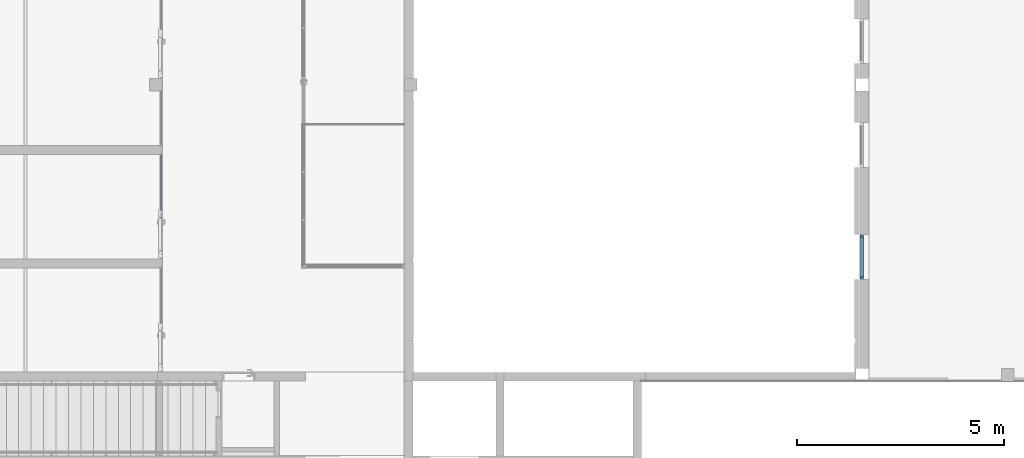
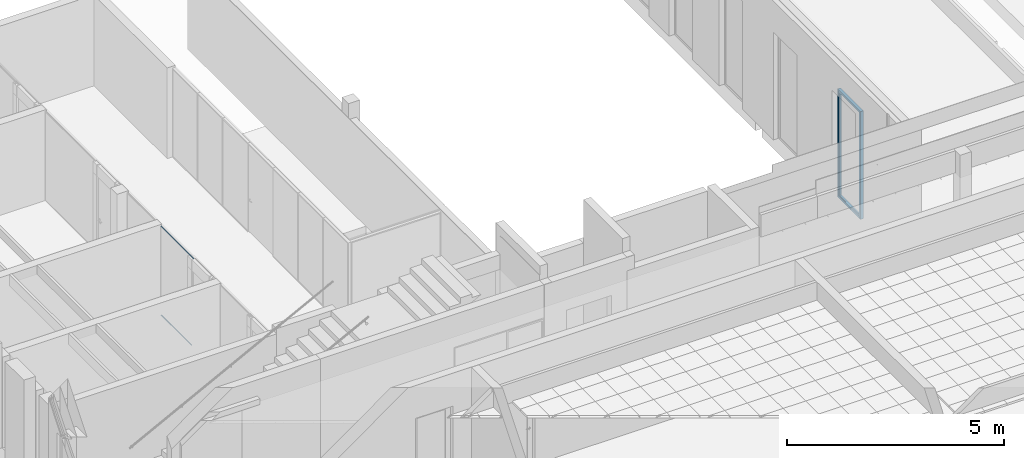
# One storey, part 5 of 79: 6 members, 2 elements without a shape of their own.
"""IFC2X3 building model written with IfcOpenShell, lengths in millimetres."""

from ifc_helpers import new_model, entity, si_unit, converted_unit, derived_unit, money_unit, direction, frame, origin_with_axes, place, context, subcontext, project, spatial, faceted_brep, source, transform, mapped, material, material_list, type_object, element, aggregate, save


model = new_model("IFC2X3")

# Units and contexts
model_context = context("Model", 3, precision=0.01, world=origin_with_axes(), true_north=direction((0.0, 1.0)))
body_context = subcontext(model_context, "Body", "Model", "MODEL_VIEW")
ifc_project = project(units=[si_unit("LENGTHUNIT", "METRE", prefix="MILLI"), si_unit("AREAUNIT", "SQUARE_METRE"), si_unit("VOLUMEUNIT", "CUBIC_METRE"), converted_unit("PLANEANGLEUNIT", "DEGREE", entity("IfcPlaneAngleMeasure", 0.0174532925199), si_unit("PLANEANGLEUNIT", "RADIAN"), dimensions=[0, 0, 0, 0, 0, 0, 0]), si_unit("SOLIDANGLEUNIT", "STERADIAN"), money_unit("EUR"), converted_unit("TIMEUNIT", "Year", entity("IfcTimeMeasure", 31556926.0), si_unit("TIMEUNIT", "SECOND"), dimensions=[0, 0, 1, 0, 0, 0, 0]), si_unit("MASSUNIT", "GRAM", prefix="KILO"), si_unit("THERMODYNAMICTEMPERATUREUNIT", "DEGREE_CELSIUS"), si_unit("LUMINOUSINTENSITYUNIT", "LUMEN"), si_unit("ENERGYUNIT", "JOULE", prefix="MEGA"), derived_unit("THERMALCONDUCTANCEUNIT", [(si_unit("POWERUNIT", "WATT"), 1), (si_unit("LENGTHUNIT", "METRE"), -1), (si_unit("THERMODYNAMICTEMPERATUREUNIT", "KELVIN"), -1)]), derived_unit("SPECIFICHEATCAPACITYUNIT", [(si_unit("ENERGYUNIT", "JOULE"), 1), (si_unit("MASSUNIT", "GRAM", prefix="KILO"), -1), (si_unit("THERMODYNAMICTEMPERATUREUNIT", "KELVIN"), -1)]), derived_unit("MASSDENSITYUNIT", [(si_unit("MASSUNIT", "GRAM", prefix="KILO"), 1), (si_unit("VOLUMEUNIT", "CUBIC_METRE"), -1)])], contexts=[model_context])

# Site, building, storey
site_placement = place(None, origin_with_axes())
site = spatial("IfcSite", under=ifc_project, at=site_placement, Name="L.Koidula tn 11b", CompositionType="ELEMENT")
building_placement = place(site_placement, origin_with_axes())
building = spatial("IfcBuilding", under=site, at=building_placement, Name="Rakvere Riigigümnaasium", CompositionType="ELEMENT")
storey_placement = place(building_placement, frame((0.0, 0.0, 3720.0), z_axis=(0.0, 0.0, 1.0), x_axis=(1.0, 0.0, 0.0)))
storey = spatial("IfcBuildingStorey", under=building, at=storey_placement, Name="2.korrus +3,72", CompositionType="ELEMENT", Elevation=3720.0)

# Curtain wall, members
curtain_wall_type = type_object("IfcCurtainWallType", Name="Curtain Wall Type", PredefinedType="NOTDEFINED")
curtain_wall_1_placement = place(storey_placement, frame((58002.0348101, 20096.1456632, -1405.00005955), z_axis=(0.0, 0.0, 1.0), x_axis=(1.0, 0.0, 0.0)))
curtain_wall_1 = element("IfcCurtainWall", 1, at=curtain_wall_1_placement, inside=storey, type_object=curtain_wall_type, Name="SKLF-23")
ifc_material_1 = material(Name="Alumiiniumprofiil (RAL 7021)")
member_type_1 = type_object("IfcMemberType", Name="Boundary Frame 58 x 80", PredefinedType="MULLION")
shared_shape_1 = source(origin_with_axes(), body_context, "Body", "Brep", [
    faceted_brep([(45.0, -12.0, 1014.99992136), (45.0, 12.0, 1014.99992136), (58.0, 12.0, 1001.99992136), (58.0, 22.0, 1001.99992136), (0.0, 22.0, 1059.99992136), (0.0, -58.0, 1059.99992136), (58.0, -58.0, 1001.99992136), (58.0, -12.0, 1001.99992136), (45.0, -12.0, 45.0), (45.0, 12.0, 45.0), (58.0, 12.0, 58.0), (58.0, 22.0, 58.0), (0.0, 22.0, 0.0), (0.0, -58.0, 0.0), (58.0, -58.0, 58.0), (58.0, -12.0, 58.0)], [[[0, 1, 2, 3, 4, 5, 6, 7]], [[1, 0, 8, 9]], [[10, 2, 1, 9]], [[2, 10, 11, 3]], [[4, 3, 11, 12]], [[5, 4, 12, 13]], [[6, 5, 13, 14]], [[15, 7, 6, 14]], [[0, 7, 15, 8]], [[8, 15, 14, 13, 12, 11, 10, 9]]]),
])
member_1_placement = place(curtain_wall_1_placement, frame((0.0, 529.99994916, 0.0), z_axis=(0.0, -1.0, 0.0), x_axis=(0.0, 0.0, 1.0)))
member_1 = element("IfcMember", 2, at=member_1_placement, type_object=member_type_1, material=ifc_material_1, Name="KLF-06-25-Profiilid", ObjectType="MULLION", context=body_context, shape_type="MappedRepresentation", body=[
    mapped(shared_shape_1, transform((0.0, 0.0, 0.0))),
])
member_2_placement = place(curtain_wall_1_placement, frame((0.0, -529.99994916, 3030.00005901), z_axis=(0.0, 1.0, 0.0), x_axis=(0.0, 0.0, -1.0)))
member_2 = element("IfcMember", 3, at=member_2_placement, type_object=member_type_1, material=ifc_material_1, Name="KLF-06-23-Profiilid", ObjectType="MULLION", context=body_context, shape_type="MappedRepresentation", body=[
    mapped(shared_shape_1, transform((0.0, 0.0, 0.0))),
])
shared_shape_2 = source(origin_with_axes(), body_context, "Body", "Brep", [
    faceted_brep([(-45.0, -12.0, 2985.00005901), (-58.0, -12.0, 2972.00005901), (-58.0, -58.0, 2972.00005901), (0.0, -58.0, 3030.00005901), (0.0, 22.0, 3030.00005901), (-58.0, 22.0, 2972.00005901), (-58.0, 12.0, 2972.00005901), (-45.0, 12.0, 2985.00005901), (-45.0, -12.0, 45.0), (-58.0, -12.0, 58.0), (-58.0, -58.0, 58.0), (0.0, -58.0, 0.0), (0.0, 22.0, 0.0), (-58.0, 22.0, 58.0), (-58.0, 12.0, 58.0), (-45.0, 12.0, 45.0)], [[[0, 1, 2, 3, 4, 5, 6, 7]], [[0, 8, 9, 1]], [[9, 10, 2, 1]], [[2, 10, 11, 3]], [[3, 11, 12, 4]], [[4, 12, 13, 5]], [[6, 5, 13, 14]], [[14, 15, 7, 6]], [[7, 15, 8, 0]], [[8, 15, 14, 13, 12, 11, 10, 9]]]),
])
member_3_placement = place(curtain_wall_1_placement, frame((0.0, 529.99994916, 0.0), z_axis=(0.0, 0.0, 1.0), x_axis=(0.0, 1.0, 0.0)))
member_3 = element("IfcMember", 4, at=member_3_placement, type_object=member_type_1, material=ifc_material_1, Name="KLF-06-24-Profiilid", ObjectType="MULLION", context=body_context, shape_type="MappedRepresentation", body=[
    mapped(shared_shape_2, transform((0.0, 0.0, 0.0))),
])
shared_shape_3 = source(origin_with_axes(), body_context, "Body", "Brep", [
    faceted_brep([(45.0, -12.0, 2985.00005901), (45.0, 12.0, 2985.00005901), (58.0, 12.0, 2972.00005901), (58.0, 22.0, 2972.00005901), (0.0, 22.0, 3030.00005901), (0.0, -58.0, 3030.00005901), (58.0, -58.0, 2972.00005901), (58.0, -12.0, 2972.00005901), (45.0, -12.0, 45.0), (45.0, 12.0, 45.0), (58.0, 12.0, 58.0), (58.0, 22.0, 58.0), (0.0, 22.0, 0.0), (0.0, -58.0, 0.0), (58.0, -58.0, 58.0), (58.0, -12.0, 58.0)], [[[0, 1, 2, 3, 4, 5, 6, 7]], [[1, 0, 8, 9]], [[10, 2, 1, 9]], [[2, 10, 11, 3]], [[4, 3, 11, 12]], [[5, 4, 12, 13]], [[6, 5, 13, 14]], [[15, 7, 6, 14]], [[0, 7, 15, 8]], [[8, 15, 14, 13, 12, 11, 10, 9]]]),
])
member_4_placement = place(curtain_wall_1_placement, frame((0.0, -529.99994916, 0.0), z_axis=(0.0, 0.0, 1.0), x_axis=(0.0, 1.0, 0.0)))
member_4 = element("IfcMember", 5, at=member_4_placement, type_object=member_type_1, material=ifc_material_1, Name="KLF-06-26-Profiilid", ObjectType="MULLION", context=body_context, shape_type="MappedRepresentation", body=[
    mapped(shared_shape_3, transform((0.0, 0.0, 0.0))),
])
aggregate(curtain_wall_1, [member_1, member_2, member_3, member_4])

curtain_wall_2_placement = place(storey_placement, frame((41130.9157939, 20570.4555219, 2.41342252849e-05), z_axis=(0.0, 0.0, 1.0), x_axis=(1.0, 0.0, 0.0)))
curtain_wall_2 = element("IfcCurtainWall", 6, at=curtain_wall_2_placement, inside=storey, type_object=curtain_wall_type, Name="SKLF-13")
ifc_material_2 = material(Name="Klaasvill")
ifc_material_3 = material(Name="Alumiiniumprofiil")
ifc_material_list = material_list([ifc_material_2, ifc_material_3])
member_type_2 = type_object("IfcMemberType", Name="Boundary Frame 17 x 1", PredefinedType="MULLION")
shared_shape_4 = source(origin_with_axes(), body_context, "Body", "Brep", [
    faceted_brep([(2.00001937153, -5.0, -54.9999995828), (8.35001937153, -5.0, -54.9999995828), (8.35001937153, -5.0, 1461.64998584), (2.00001937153, -5.0, 1467.99998584), (2.00001937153, 9.01614452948, -54.9999995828), (8.35001937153, 9.01614452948, -54.9999995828), (8.35001937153, 9.01614452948, 1461.64998584), (2.00001937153, 9.01614452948, 1467.99998584)], [[[0, 1, 2, 3]], [[0, 4, 5, 1]], [[1, 5, 6, 2]], [[3, 2, 6, 7]], [[4, 0, 3, 7]], [[5, 4, 7, 6]]]),
    faceted_brep([(11.987414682, 9.01614444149, -54.9999995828), (12.004489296, 7.03075035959, -54.9999995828), (12.004489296, 7.03075035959, 1457.99551592), (11.987414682, 9.01614444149, 1458.01259053), (15.5126239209, 9.01614444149, -54.9999995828), (15.7655837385, 8.03853257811, -54.9999995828), (15.4955493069, 7.03075035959, -54.9999995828), (14.75780152, 6.29300257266, -54.9999995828), (13.7500193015, 6.02296814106, -54.9999995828), (12.742237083, 6.29300257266, -54.9999995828), (12.742237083, 6.29300257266, 1457.25776813), (13.7500193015, 6.02296814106, 1456.24998591), (14.75780152, 6.29300257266, 1455.24220369), (15.4955493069, 7.03075035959, 1454.50445591), (15.7655837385, 8.03853257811, 1454.23442147), (15.5126239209, 9.01614444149, 1454.48738129)], [[[0, 1, 2, 3]], [[0, 4, 5, 6, 7, 8, 9, 1]], [[1, 9, 10, 2]], [[3, 2, 10, 11, 12, 13, 14, 15]], [[4, 0, 3, 15]], [[5, 4, 15, 14]], [[6, 5, 14, 13]], [[7, 6, 13, 12]], [[8, 7, 12, 11]], [[9, 8, 11, 10]]]),
    faceted_brep([(0.0, -8.0, -54.9999995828), (17.0000193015, -8.0, -54.9999995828), (17.0000193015, -8.0, 1452.99998591), (0.0, -8.0, 1470.00000521), (0.0, 12.0, -54.9999995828), (17.0000193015, 12.0, -54.9999995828), (17.0000193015, 9.01614444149, -54.9999995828), (15.5126239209, 9.01614444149, -54.9999995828), (11.987414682, 9.01614444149, -54.9999995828), (8.35001937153, 9.01614452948, -54.9999995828), (2.00001930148, 9.01614444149, -54.9999995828), (2.00001930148, -5.0, -54.9999995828), (8.35001937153, -5.0, -54.9999995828), (17.0000193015, -5.0, -54.9999995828), (17.0000193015, -5.0, 1452.99998591), (8.35001937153, -5.0, 1461.64998584), (2.00001930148, -5.0, 1467.99998591), (2.00001930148, 9.01614444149, 1467.99998591), (8.35001937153, 9.01614452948, 1461.64998584), (11.987414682, 9.01614444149, 1458.01259053), (15.5126239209, 9.01614444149, 1454.48738129), (17.0000193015, 9.01614444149, 1452.99998591), (17.0000193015, 12.0, 1452.99998591), (0.0, 12.0, 1470.00000521)], [[[0, 1, 2, 3]], [[0, 4, 5, 6, 7, 8, 9, 10, 11, 12, 13, 1]], [[1, 13, 14, 2]], [[3, 2, 14, 15, 16, 17, 18, 19, 20, 21, 22, 23]], [[4, 0, 3, 23]], [[5, 4, 23, 22]], [[6, 5, 22, 21]], [[7, 6, 21, 20]], [[8, 7, 20, 19]], [[9, 8, 19, 18]], [[10, 9, 18, 17]], [[11, 10, 17, 16]], [[12, 11, 16, 15]], [[13, 12, 15, 14]]]),
])
member_5_placement = place(curtain_wall_2_placement, frame((0.0222601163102, 519.999999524, 2507.99997587), z_axis=(4.28079159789e-05, 0.999999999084, 0.0), x_axis=(0.0, 0.0, 1.0)))
member_5 = element("IfcMember", 7, at=member_5_placement, type_object=member_type_2, material=ifc_material_list, Name="PV-SKLF-21-raam", ObjectType="MULLION", context=body_context, shape_type="MappedRepresentation", body=[
    mapped(shared_shape_4, transform((0.0, 0.0, 0.0), x_axis=(-1.0, 0.0, 0.0), y_axis=(0.0, -1.0, 0.0), z_axis=(0.0, 0.0, 1.0))),
])
shared_shape_5 = source(origin_with_axes(), body_context, "Body", "Brep", [
    faceted_brep([(-2.00001937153, -5.0, 0.0), (-2.00001937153, -5.0, 1416.19326956), (-8.35001937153, -5.0, 1409.84326956), (-8.35001937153, -5.0, 0.0), (-2.00001937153, 9.01614452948, 0.0), (-2.00001937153, 9.01614452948, 1416.19326956), (-8.35001937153, 9.01614452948, 1409.84326956), (-8.35001937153, 9.01614452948, 0.0)], [[[0, 1, 2, 3]], [[4, 5, 1, 0]], [[1, 5, 6, 2]], [[3, 2, 6, 7]], [[0, 3, 7, 4]], [[7, 6, 5, 4]]]),
    faceted_brep([(-11.987414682, 9.01614444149, 0.0), (-11.987414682, 9.01614444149, 1406.20587425), (-12.004489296, 7.03075035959, 1406.18879963), (-12.004489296, 7.03075035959, 0.0), (-15.5126239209, 9.01614444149, 0.0), (-15.5126239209, 9.01614444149, 1402.68066501), (-15.7655837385, 8.03853257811, 1402.42770519), (-15.4955493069, 7.03075035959, 1402.69773962), (-14.75780152, 6.29300257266, 1403.43548741), (-13.7500193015, 6.02296814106, 1404.44326963), (-12.742237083, 6.29300257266, 1405.45105185), (-12.742237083, 6.29300257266, 0.0), (-13.7500193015, 6.02296814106, 0.0), (-14.75780152, 6.29300257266, 0.0), (-15.4955493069, 7.03075035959, 0.0), (-15.7655837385, 8.03853257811, 0.0)], [[[0, 1, 2, 3]], [[4, 5, 1, 0]], [[1, 5, 6, 7, 8, 9, 10, 2]], [[3, 2, 10, 11]], [[0, 3, 11, 12, 13, 14, 15, 4]], [[15, 6, 5, 4]], [[14, 7, 6, 15]], [[13, 8, 7, 14]], [[12, 9, 8, 13]], [[11, 10, 9, 12]]]),
    faceted_brep([(0.0, -8.0, 0.0), (0.0, -8.0, 1418.19328893), (-17.0000193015, -8.0, 1401.19326963), (-17.0000193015, -8.0, 0.0), (0.0, 12.0, 0.0), (0.0, 12.0, 1418.19328893), (-17.0000193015, 12.0, 1401.19326963), (-17.0000193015, 9.01614444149, 1401.19326963), (-15.5126239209, 9.01614444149, 1402.68066501), (-11.987414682, 9.01614444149, 1406.20587425), (-8.35001937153, 9.01614452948, 1409.84326956), (-2.00001930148, 9.01614444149, 1416.19326963), (-2.00001930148, -5.0, 1416.19326963), (-8.35001937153, -5.0, 1409.84326956), (-17.0000193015, -5.0, 1401.19326963), (-17.0000193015, -5.0, 0.0), (-8.35001937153, -5.0, 0.0), (-2.00001930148, -5.0, 0.0), (-2.00001930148, 9.01614444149, 0.0), (-8.35001937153, 9.01614452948, 0.0), (-11.987414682, 9.01614444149, 0.0), (-15.5126239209, 9.01614444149, 0.0), (-17.0000193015, 9.01614444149, 0.0), (-17.0000193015, 12.0, 0.0)], [[[0, 1, 2, 3]], [[4, 5, 1, 0]], [[1, 5, 6, 7, 8, 9, 10, 11, 12, 13, 14, 2]], [[3, 2, 14, 15]], [[0, 3, 15, 16, 17, 18, 19, 20, 21, 22, 23, 4]], [[23, 6, 5, 4]], [[22, 7, 6, 23]], [[21, 8, 7, 22]], [[20, 9, 8, 21]], [[19, 10, 9, 20]], [[18, 11, 10, 19]], [[17, 12, 11, 18]], [[16, 13, 12, 17]], [[15, 14, 13, 16]]]),
])
member_6_placement = place(curtain_wall_2_placement, frame((0.0244778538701, 571.80671576, -2.41342252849e-05), z_axis=(4.28079159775e-05, 0.999999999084, 0.0), x_axis=(0.0, 0.0, 1.0)))
member_6 = element("IfcMember", 8, at=member_6_placement, type_object=member_type_2, material=ifc_material_list, Name="PV-SKLF-18-raam", ObjectType="MULLION", context=body_context, shape_type="MappedRepresentation", body=[
    mapped(shared_shape_5, transform((0.0, 0.0, 0.0), x_axis=(-1.0, 0.0, 0.0), y_axis=(0.0, -1.0, 0.0), z_axis=(0.0, 0.0, 1.0))),
])
aggregate(curtain_wall_2, [member_6, member_5])

save(model, "model.ifc")
